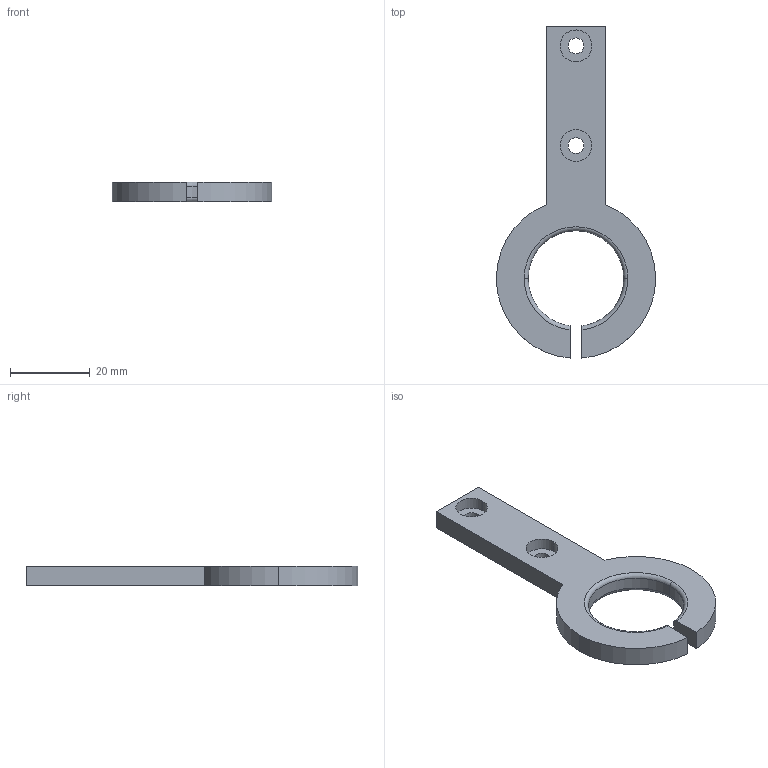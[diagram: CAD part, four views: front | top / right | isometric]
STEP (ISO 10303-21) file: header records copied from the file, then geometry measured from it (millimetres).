
FILE_DESCRIPTION(('STEP AP203'),'1');
FILE_NAME('SUPPORT_SERINGUE_30cc_Tobeca3.stp','2019-07-24T12:04:07',(' '),(' '),'Spatial InterOp 3D',' ',' ');
FILE_SCHEMA(('CONFIG_CONTROL_DESIGN'));
Length unit declared in the file: metre
Products named in the file (1): 1
Bounding box: 40 x 83.32 x 5 mm (x, y, z)
Volume: 6807 mm3; surface area: 4467 mm2
Topology: 1 solids, 1 shells, 30 faces, 74 edges, 48 vertices
Faces by surface type: cylinder 15, plane 9, torus 6
Entity records: 1034 total; most frequent: CARTESIAN_POINT 237, DIRECTION 172, ORIENTED_EDGE 148, EDGE_CURVE 74, AXIS2_PLACEMENT_3D 71, VERTEX_POINT 48, CIRCLE 40, EDGE_LOOP 36
